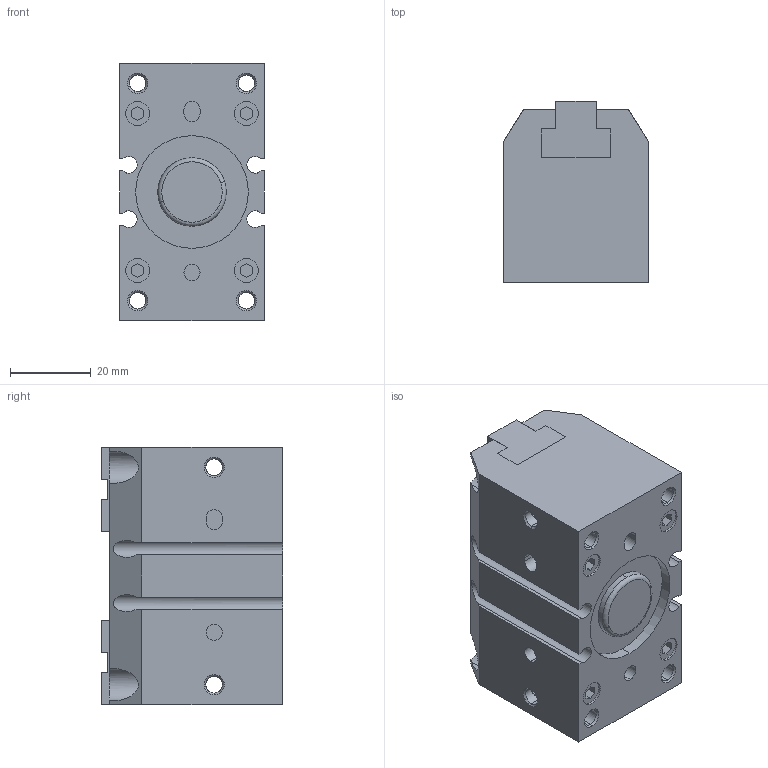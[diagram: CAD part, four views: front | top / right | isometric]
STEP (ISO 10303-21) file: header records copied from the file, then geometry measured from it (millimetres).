
FILE_DESCRIPTION (( 'STEP AP203' ), '1' );
FILE_NAME ('SDW25_0_.STEP', '2022-10-17T02:11:22', ( '' ), ( '' ), 'SwSTEP 2.0', 'SolidWorks 2018', '' );
FILE_SCHEMA (( 'CONFIG_CONTROL_DESIGN' ));
Length unit declared in the file: millimetre
Products named in the file (3): SDW25-01; SDW25_0_; SDW25-06
Assembly tree (3 placements, depth 2):
  SDW25_0_
    SDW25-01  x2
    SDW25-06
Bounding box: 36 x 45 x 64 mm (x, y, z)
Volume: 87794.1 mm3; surface area: 23139.9 mm2
Topology: 3 solids, 3 shells, 262 faces, 640 edges, 412 vertices
Faces by surface type: plane 152, cylinder 84, cone 24, torus 2
Entity records: 7673 total; most frequent: CARTESIAN_POINT 1680, DIRECTION 1176, ORIENTED_EDGE 1156, EDGE_CURVE 578, LINE 396, VECTOR 396, AXIS2_PLACEMENT_3D 390, VERTEX_POINT 372
